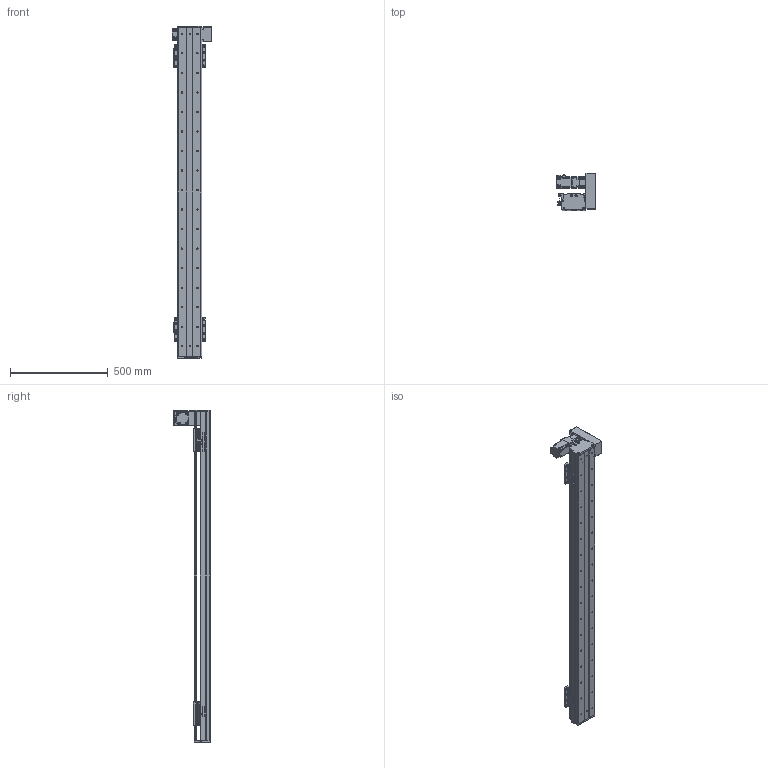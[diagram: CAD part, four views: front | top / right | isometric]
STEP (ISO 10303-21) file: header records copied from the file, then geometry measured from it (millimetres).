
FILE_DESCRIPTION(/* description */ (''),/* implementation_level */ '2;1');
FILE_NAME(/* name */ 'C:\Users\PC\Desktop\3D도면\STEP\DSB125-UR2G-W1400-L.stp',/* time_stamp */ '2018-06-19T16:57:46+09:00',/* author */ ('PC'),/* organization */ (''),/* preprocessor_version */ 'ST-DEVELOPER v16.5',/* originating_system */ 'Autodesk Inventor 2017',/* authorisation */ '');
FILE_SCHEMA (('AUTOMOTIVE_DESIGN { 1 0 10303 214 3 1 1 }'));
Length unit declared in the file: millimetre
Products named in the file (12): DSB125-UL2G-W1400-R_MIR; DSB125-BASE_MIR; DSB125-UP COVER_MIR; DSB125-FRONT COVER_MIR; DSB125-REAR COVER_MIR; hg-kr23__MIR; ab0601-p0401200402_MIR; 13-BELT COVER_MIR; DSR125-SENSOR DOG_MIR; SENSOR BRACKET(EE-SX674A)_MIR; pm-y65_step_MIR; DSB125-TABLE(MSB15S)_MIR
Assembly tree (16 placements, depth 2):
  DSB125-UL2G-W1400-R_MIR
    DSB125-BASE_MIR
    DSB125-UP COVER_MIR
    DSB125-FRONT COVER_MIR
    DSB125-REAR COVER_MIR
    hg-kr23__MIR
    ab0601-p0401200402_MIR
    13-BELT COVER_MIR
    DSR125-SENSOR DOG_MIR
    SENSOR BRACKET(EE-SX674A)_MIR  x3
    pm-y65_step_MIR  x3
    DSB125-TABLE(MSB15S)_MIR  x2
Bounding box: 202.1 x 187 x 1700 mm (x, y, z)
Volume: 5941662 mm3; surface area: 1709256.9 mm2
Topology: 17 solids, 17 shells, 1679 faces, 4550 edges, 2996 vertices
Faces by surface type: plane 903, cylinder 640, cone 124, sphere 8, torus 4
Full cylindrical faces by diameter (mm): 2.459 x20, 3.242 x16, 3.5 x6, 4 x1, 4.134 x16, 4.2 x4, 4.3 x1, 4.5 x50, 4.917 x20, 5 x22, 5.3 x1, 5.5 x4, 5.6 x8, 5.8 x4, 5.9 x8, 6 x4, 6.6 x22, 6.647 x34, 7.5 x32, 8.5 x8, 8.7 x1, 11 x22, 14 x1, 16 x2, 17 x1, 20 x1, 47 x1, 50 x3
Entity records: 36389 total; most frequent: CARTESIAN_POINT 6543, DIRECTION 6186, ORIENTED_EDGE 5514, EDGE_CURVE 2757, AXIS2_PLACEMENT_3D 2281, VERTEX_POINT 1966, EDGE_LOOP 1709, LINE 1624
